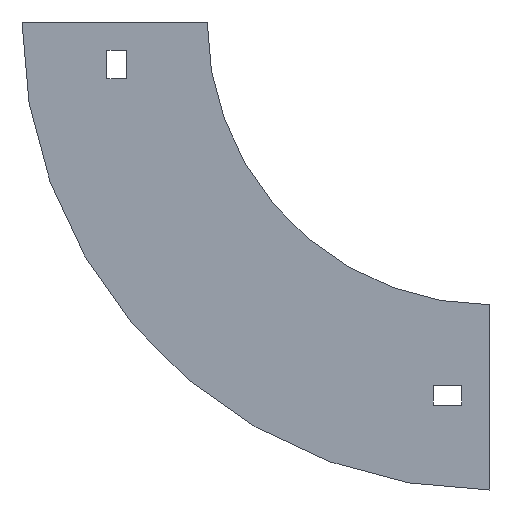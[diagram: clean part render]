
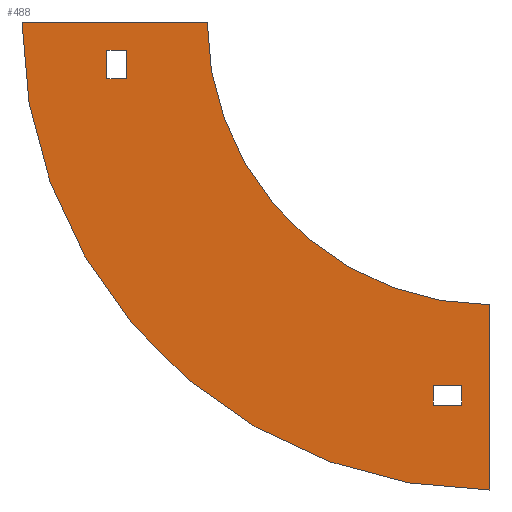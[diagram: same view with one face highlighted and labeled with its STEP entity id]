
A CAD part, left-side view. The second image highlights one B-rep face of the part: STEP entity #488.
In plain terms, the highlighted planar face has unit normal (-1, 0, 0).
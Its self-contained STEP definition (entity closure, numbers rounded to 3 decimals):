
#2 = PLANE ( 'NONE',  #321 ) ;
#7 = VECTOR ( 'NONE', #952, 1000. ) ;
#15 = VECTOR ( 'NONE', #55, 1000. ) ;
#31 = ORIENTED_EDGE ( 'NONE', *, *, #292, .T. ) ;
#55 = DIRECTION ( 'NONE',  ( 0., -1., 0. ) ) ;
#74 = VERTEX_POINT ( 'NONE', #503 ) ;
#86 = DIRECTION ( 'NONE',  ( -1., 0., 0. ) ) ;
#91 = CIRCLE ( 'NONE', #530, 165.5 ) ;
#99 = ORIENTED_EDGE ( 'NONE', *, *, #743, .F. ) ;
#108 = DIRECTION ( 'NONE',  ( 0., 0., 1. ) ) ;
#115 = EDGE_CURVE ( 'NONE', #287, #561, #602, .T. ) ;
#120 = ORIENTED_EDGE ( 'NONE', *, *, #635, .F. ) ;
#121 = VECTOR ( 'NONE', #515, 1000. ) ;
#122 = VECTOR ( 'NONE', #1064, 1000. ) ;
#132 = VERTEX_POINT ( 'NONE', #405 ) ;
#151 = LINE ( 'NONE', #413, #158 ) ;
#153 = VERTEX_POINT ( 'NONE', #700 ) ;
#158 = VECTOR ( 'NONE', #772, 1000. ) ;
#197 = VERTEX_POINT ( 'NONE', #899 ) ;
#199 = LINE ( 'NONE', #707, #122 ) ;
#203 = VERTEX_POINT ( 'NONE', #613 ) ;
#217 = ORIENTED_EDGE ( 'NONE', *, *, #481, .F. ) ;
#223 = CARTESIAN_POINT ( 'NONE',  ( -302., -100., -100. ) ) ;
#225 = EDGE_CURVE ( 'NONE', #74, #547, #502, .T. ) ;
#226 = CARTESIAN_POINT ( 'NONE',  ( -302., 65.5, 0. ) ) ;
#250 = CARTESIAN_POINT ( 'NONE',  ( -302., -80., -128.5 ) ) ;
#278 = DIRECTION ( 'NONE',  ( 0., 0., 1. ) ) ;
#287 = VERTEX_POINT ( 'NONE', #1088 ) ;
#292 = EDGE_CURVE ( 'NONE', #153, #611, #151, .T. ) ;
#295 = ORIENTED_EDGE ( 'NONE', *, *, #225, .F. ) ;
#306 = CARTESIAN_POINT ( 'NONE',  ( -302., -90., -128.5 ) ) ;
#312 = VECTOR ( 'NONE', #886, 1000. ) ;
#321 = AXIS2_PLACEMENT_3D ( 'NONE', #900, #86, #108 ) ;
#337 = CARTESIAN_POINT ( 'NONE',  ( -302., -90., -135.5 ) ) ;
#343 = CARTESIAN_POINT ( 'NONE',  ( -302., 35.5, -20. ) ) ;
#360 = CARTESIAN_POINT ( 'NONE',  ( -302., 35.5, -20. ) ) ;
#365 = EDGE_CURVE ( 'NONE', #561, #153, #589, .T. ) ;
#368 = FACE_BOUND ( 'NONE', #1110, .T. ) ;
#403 = EDGE_LOOP ( 'NONE', ( #537, #99, #217, #643 ) ) ;
#405 = CARTESIAN_POINT ( 'NONE',  ( -302., -80., -135.5 ) ) ;
#413 = CARTESIAN_POINT ( 'NONE',  ( -302., 35.5, -10. ) ) ;
#481 = EDGE_CURVE ( 'NONE', #132, #203, #199, .T. ) ;
#484 = LINE ( 'NONE', #223, #524 ) ;
#488 = ADVANCED_FACE ( 'NONE', ( #368, #985, #546 ), #2, .T. ) ;
#491 = VECTOR ( 'NONE', #587, 1000. ) ;
#495 = ORIENTED_EDGE ( 'NONE', *, *, #750, .F. ) ;
#500 = LINE ( 'NONE', #306, #717 ) ;
#502 = CIRCLE ( 'NONE', #1061, 100. ) ;
#503 = CARTESIAN_POINT ( 'NONE',  ( -302., 0., 0. ) ) ;
#515 = DIRECTION ( 'NONE',  ( 0., 1., 0. ) ) ;
#524 = VECTOR ( 'NONE', #655, 1000. ) ;
#529 = CARTESIAN_POINT ( 'NONE',  ( -302., 28.5, -10. ) ) ;
#530 = AXIS2_PLACEMENT_3D ( 'NONE', #741, #1080, #278 ) ;
#536 = CARTESIAN_POINT ( 'NONE',  ( -302., -80., -135.5 ) ) ;
#537 = ORIENTED_EDGE ( 'NONE', *, *, #882, .F. ) ;
#546 = FACE_BOUND ( 'NONE', #403, .T. ) ;
#547 = VERTEX_POINT ( 'NONE', #964 ) ;
#557 = EDGE_CURVE ( 'NONE', #759, #132, #879, .T. ) ;
#561 = VERTEX_POINT ( 'NONE', #360 ) ;
#587 = DIRECTION ( 'NONE',  ( 0., 0., 1. ) ) ;
#589 = LINE ( 'NONE', #947, #7 ) ;
#602 = LINE ( 'NONE', #343, #121 ) ;
#611 = VERTEX_POINT ( 'NONE', #827 ) ;
#612 = LINE ( 'NONE', #529, #312 ) ;
#613 = CARTESIAN_POINT ( 'NONE',  ( -302., -90., -135.5 ) ) ;
#629 = ORIENTED_EDGE ( 'NONE', *, *, #1129, .F. ) ;
#635 = EDGE_CURVE ( 'NONE', #547, #1104, #484, .T. ) ;
#643 = ORIENTED_EDGE ( 'NONE', *, *, #557, .F. ) ;
#655 = DIRECTION ( 'NONE',  ( 0., 0., -1. ) ) ;
#700 = CARTESIAN_POINT ( 'NONE',  ( -302., 35.5, -10. ) ) ;
#705 = DIRECTION ( 'NONE',  ( -1., 0., 0. ) ) ;
#707 = CARTESIAN_POINT ( 'NONE',  ( -302., -90., -135.5 ) ) ;
#713 = CARTESIAN_POINT ( 'NONE',  ( -302., -100., 0. ) ) ;
#717 = VECTOR ( 'NONE', #937, 1000. ) ;
#741 = CARTESIAN_POINT ( 'NONE',  ( -302., -100., 0. ) ) ;
#743 = EDGE_CURVE ( 'NONE', #203, #197, #775, .T. ) ;
#750 = EDGE_CURVE ( 'NONE', #804, #74, #870, .T. ) ;
#759 = VERTEX_POINT ( 'NONE', #250 ) ;
#772 = DIRECTION ( 'NONE',  ( 0., -1., 0. ) ) ;
#775 = LINE ( 'NONE', #337, #491 ) ;
#804 = VERTEX_POINT ( 'NONE', #226 ) ;
#827 = CARTESIAN_POINT ( 'NONE',  ( -302., 28.5, -10. ) ) ;
#844 = ORIENTED_EDGE ( 'NONE', *, *, #365, .T. ) ;
#870 = LINE ( 'NONE', #1031, #15 ) ;
#879 = LINE ( 'NONE', #536, #915 ) ;
#882 = EDGE_CURVE ( 'NONE', #197, #759, #500, .T. ) ;
#886 = DIRECTION ( 'NONE',  ( 0., 0., -1. ) ) ;
#899 = CARTESIAN_POINT ( 'NONE',  ( -302., -90., -128.5 ) ) ;
#900 = CARTESIAN_POINT ( 'NONE',  ( -302., -100., 0. ) ) ;
#915 = VECTOR ( 'NONE', #1057, 1000. ) ;
#935 = ORIENTED_EDGE ( 'NONE', *, *, #1076, .T. ) ;
#937 = DIRECTION ( 'NONE',  ( 0., 1., 0. ) ) ;
#947 = CARTESIAN_POINT ( 'NONE',  ( -302., 35.5, -10. ) ) ;
#952 = DIRECTION ( 'NONE',  ( 0., 0., 1. ) ) ;
#964 = CARTESIAN_POINT ( 'NONE',  ( -302., -100., -100. ) ) ;
#971 = DIRECTION ( 'NONE',  ( 0., 0., 1. ) ) ;
#985 = FACE_OUTER_BOUND ( 'NONE', #1124, .T. ) ;
#999 = CARTESIAN_POINT ( 'NONE',  ( -302., -100., -165.5 ) ) ;
#1003 = ORIENTED_EDGE ( 'NONE', *, *, #115, .T. ) ;
#1031 = CARTESIAN_POINT ( 'NONE',  ( -302., 65.5, 0. ) ) ;
#1057 = DIRECTION ( 'NONE',  ( 0., 0., -1. ) ) ;
#1061 = AXIS2_PLACEMENT_3D ( 'NONE', #713, #705, #971 ) ;
#1064 = DIRECTION ( 'NONE',  ( 0., -1., 0. ) ) ;
#1076 = EDGE_CURVE ( 'NONE', #611, #287, #612, .T. ) ;
#1080 = DIRECTION ( 'NONE',  ( 1., 0., 0. ) ) ;
#1088 = CARTESIAN_POINT ( 'NONE',  ( -302., 28.5, -20. ) ) ;
#1104 = VERTEX_POINT ( 'NONE', #999 ) ;
#1110 = EDGE_LOOP ( 'NONE', ( #31, #935, #1003, #844 ) ) ;
#1124 = EDGE_LOOP ( 'NONE', ( #295, #495, #629, #120 ) ) ;
#1129 = EDGE_CURVE ( 'NONE', #1104, #804, #91, .T. ) ;
